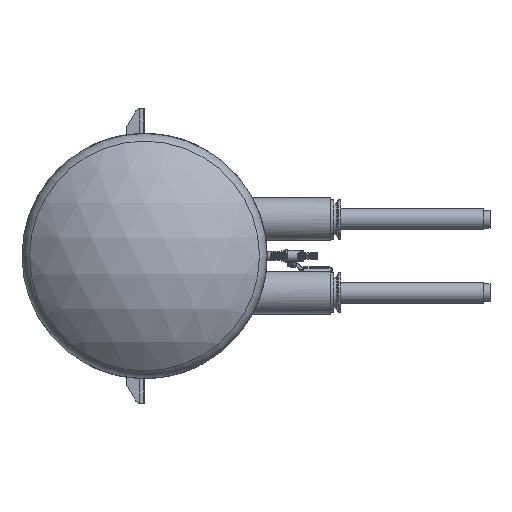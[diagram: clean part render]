
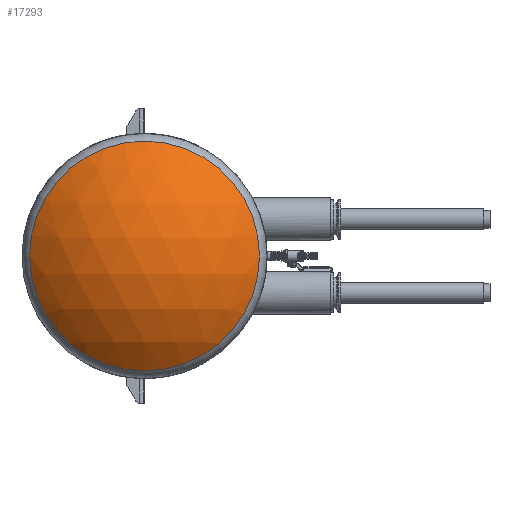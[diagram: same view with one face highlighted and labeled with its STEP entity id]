
A CAD part, left-side view. The second image highlights one B-rep face of the part: STEP entity #17293.
In plain terms, the highlighted spherical face has radius 346.109 mm.
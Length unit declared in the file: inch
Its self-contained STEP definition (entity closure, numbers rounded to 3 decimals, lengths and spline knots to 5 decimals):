
#17293 = ADVANCED_FACE ( 'NONE', ( #96177 ), #112264, .T. ) ;
#22896 = AXIS2_PLACEMENT_3D ( 'NONE', #46089, #154243, #74677 ) ;
#46089 = CARTESIAN_POINT ( 'NONE',  ( -41.12365, 0., 0. ) ) ;
#62628 = EDGE_CURVE ( 'NONE', #145963, #145963, #103721, .T. ) ;
#74677 = DIRECTION ( 'NONE',  ( 0., 1., 0. ) ) ;
#76513 = DIRECTION ( 'NONE',  ( 0., 0., -1. ) ) ;
#79993 = DIRECTION ( 'NONE',  ( 1., 0., 0. ) ) ;
#96177 = FACE_OUTER_BOUND ( 'NONE', #167697, .T. ) ;
#103721 = CIRCLE ( 'NONE', #140851, 9.37618 ) ;
#105724 = CARTESIAN_POINT ( 'NONE',  ( -51.01125, 0., -9.37618 ) ) ;
#112264 = SPHERICAL_SURFACE ( 'NONE', #22896, 13.62635 ) ;
#116692 = ORIENTED_EDGE ( 'NONE', *, *, #62628, .F. ) ;
#140851 = AXIS2_PLACEMENT_3D ( 'NONE', #144445, #79993, #76513 ) ;
#144445 = CARTESIAN_POINT ( 'NONE',  ( -51.01125, 0., 0. ) ) ;
#145963 = VERTEX_POINT ( 'NONE', #105724 ) ;
#154243 = DIRECTION ( 'NONE',  ( 0., 0., 1. ) ) ;
#167697 = EDGE_LOOP ( 'NONE', ( #116692 ) ) ;
